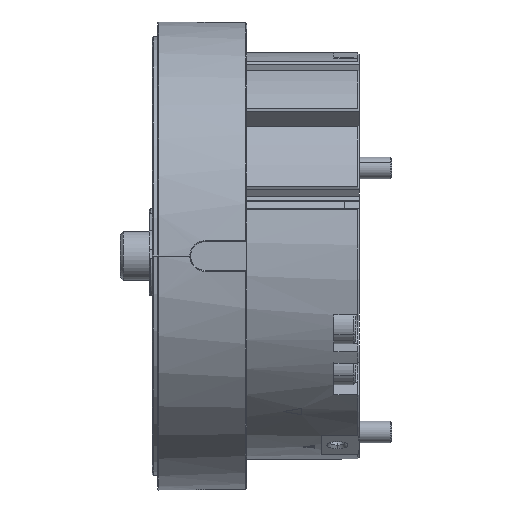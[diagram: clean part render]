
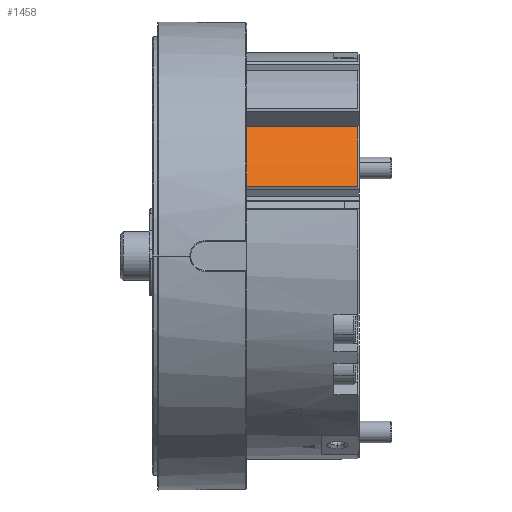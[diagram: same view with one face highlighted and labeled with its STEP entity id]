
A CAD part, left-side view. The second image highlights one B-rep face of the part: STEP entity #1458.
In plain terms, the highlighted cylindrical face has radius 56 mm (diameter 112 mm), a partial arc.
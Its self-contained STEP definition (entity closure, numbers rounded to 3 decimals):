
#1458 = ADVANCED_FACE ( 'NONE', ( #39954 ), #17239, .T. ) ;
#2202 = CIRCLE ( 'NONE', #30979, 56. ) ;
#4765 = DIRECTION ( 'NONE',  ( 0., 0., 1. ) ) ;
#10151 = DIRECTION ( 'NONE',  ( 0., 0., 1. ) ) ;
#10619 = DIRECTION ( 'NONE',  ( 0., 1., 0. ) ) ;
#11175 = ORIENTED_EDGE ( 'NONE', *, *, #90201, .T. ) ;
#12837 = DIRECTION ( 'NONE',  ( 0., 0., 1. ) ) ;
#14506 = CARTESIAN_POINT ( 'NONE',  ( -43.147, 0.4, 35.697 ) ) ;
#17239 = CYLINDRICAL_SURFACE ( 'NONE', #51560, 56. ) ;
#29204 = CIRCLE ( 'NONE', #81926, 56. ) ;
#29402 = LINE ( 'NONE', #57787, #30617 ) ;
#29599 = VECTOR ( 'NONE', #91213, 1000. ) ;
#30617 = VECTOR ( 'NONE', #58244, 1000. ) ;
#30979 = AXIS2_PLACEMENT_3D ( 'NONE', #69586, #90819, #4765 ) ;
#31468 = CARTESIAN_POINT ( 'NONE',  ( 0., 68.366, 0. ) ) ;
#31472 = CARTESIAN_POINT ( 'NONE',  ( -43.147, 31.6, 35.697 ) ) ;
#31703 = VERTEX_POINT ( 'NONE', #31472 ) ;
#32214 = ORIENTED_EDGE ( 'NONE', *, *, #83086, .F. ) ;
#36097 = VERTEX_POINT ( 'NONE', #60850 ) ;
#39589 = VERTEX_POINT ( 'NONE', #51689 ) ;
#39954 = FACE_OUTER_BOUND ( 'NONE', #56379, .T. ) ;
#51560 = AXIS2_PLACEMENT_3D ( 'NONE', #31468, #10619, #10151 ) ;
#51689 = CARTESIAN_POINT ( 'NONE',  ( -52.657, 0.4, 19.059 ) ) ;
#54486 = VERTEX_POINT ( 'NONE', #14506 ) ;
#54979 = EDGE_CURVE ( 'NONE', #36097, #39589, #29402, .T. ) ;
#56379 = EDGE_LOOP ( 'NONE', ( #90460, #11175, #32214, #73652 ) ) ;
#57787 = CARTESIAN_POINT ( 'NONE',  ( -52.657, 68.366, 19.059 ) ) ;
#58244 = DIRECTION ( 'NONE',  ( 0., -1., 0. ) ) ;
#60850 = CARTESIAN_POINT ( 'NONE',  ( -52.657, 31.6, 19.059 ) ) ;
#62039 = EDGE_CURVE ( 'NONE', #39589, #54486, #2202, .T. ) ;
#69507 = CARTESIAN_POINT ( 'NONE',  ( -43.147, 68.366, 35.697 ) ) ;
#69586 = CARTESIAN_POINT ( 'NONE',  ( 0., 0.4, 0. ) ) ;
#73652 = ORIENTED_EDGE ( 'NONE', *, *, #54979, .T. ) ;
#78486 = DIRECTION ( 'NONE',  ( 0., 1., 0. ) ) ;
#81926 = AXIS2_PLACEMENT_3D ( 'NONE', #91764, #78486, #12837 ) ;
#83086 = EDGE_CURVE ( 'NONE', #36097, #31703, #29204, .T. ) ;
#85052 = LINE ( 'NONE', #69507, #29599 ) ;
#90201 = EDGE_CURVE ( 'NONE', #54486, #31703, #85052, .T. ) ;
#90460 = ORIENTED_EDGE ( 'NONE', *, *, #62039, .T. ) ;
#90819 = DIRECTION ( 'NONE',  ( 0., 1., 0. ) ) ;
#91213 = DIRECTION ( 'NONE',  ( 0., 1., 0. ) ) ;
#91764 = CARTESIAN_POINT ( 'NONE',  ( 0., 31.6, 0. ) ) ;
